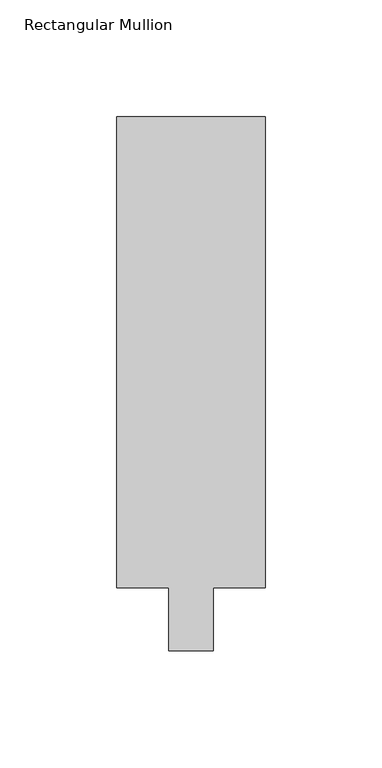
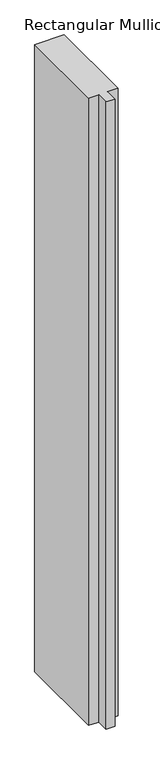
"""IFC4 building model written with IfcOpenShell, lengths in millimetres: member geometry."""

from ifc_helpers import new_model, si_unit, frame, origin, place, context, project, spatial, polyline, outline, extrude, source, transform, mapped, element, save


def rectangular_mullion_f2104aaf(model_context):
    return source(origin(), model_context, "Body", "SweptSolid", [
        extrude(outline(polyline([(31.75, 228.6), (31.75, 26.9875), (9.525, 26.9875), (9.525, 0.0), (-9.525, 0.0), (-9.525, 26.9875), (-31.75, 26.9875), (-31.75, 228.6), (31.75, 228.6)])), frame((0.0, 0.0, -1432.2777778), z_axis=(0.0, 0.0, 1.0), x_axis=(1.0, 0.0, 0.0)), (0.0, 0.0, 1.0), 1432.2777778),
    ])


if __name__ == "__main__":
    model = new_model("IFC4")
    model_context = context("Model", 3, world=origin())
    ifc_project = project(units=[si_unit("LENGTHUNIT", "METRE", prefix="MILLI")], contexts=[model_context])
    site = spatial("IfcSite", under=ifc_project)
    building = spatial("IfcBuilding", under=site)
    placement = place(None, origin())
    rectangular_mullion_shape = rectangular_mullion_f2104aaf(model_context)
    element("IfcMember", 1, ObjectType="Rectangular Mullion : 2 1/2\" x 8\" - Capless", at=placement, inside=building, context=model_context, shape_type="MappedRepresentation", body=[
        mapped(rectangular_mullion_shape, transform((0.0, 0.0, 0.0), x_axis=(1.0, 0.0, 0.0), y_axis=(0.0, 1.0, 0.0), z_axis=(0.0, 0.0, 1.0))),
    ])
    save(model, "model.ifc")
